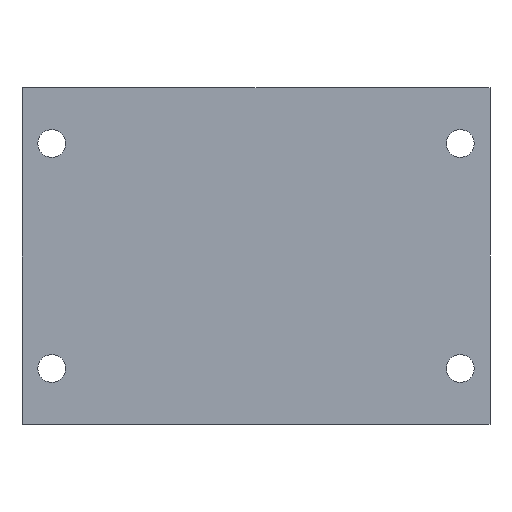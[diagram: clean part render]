
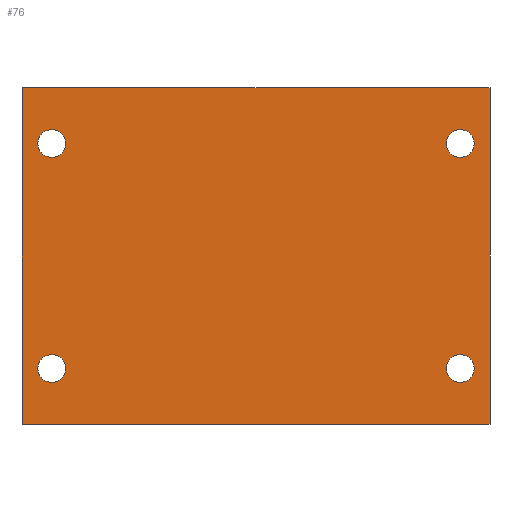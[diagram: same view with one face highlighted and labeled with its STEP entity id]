
A CAD part, front view. The second image highlights one B-rep face of the part: STEP entity #76.
In plain terms, the highlighted planar face has unit normal (0, -1, 0).
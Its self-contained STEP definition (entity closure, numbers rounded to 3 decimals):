
#2 = EDGE_CURVE ( 'NONE', #833, #43, #1090, .T. ) ;
#17 = CARTESIAN_POINT ( 'NONE',  ( 42.75, 0., -30.75 ) ) ;
#19 = CARTESIAN_POINT ( 'NONE',  ( 37.3, 0., 20.55 ) ) ;
#26 = EDGE_CURVE ( 'NONE', #1326, #95, #1617, .T. ) ;
#43 = VERTEX_POINT ( 'NONE', #986 ) ;
#46 = DIRECTION ( 'NONE',  ( 0., 0., -1. ) ) ;
#62 = EDGE_CURVE ( 'NONE', #1319, #1076, #214, .T. ) ;
#67 = ORIENTED_EDGE ( 'NONE', *, *, #211, .F. ) ;
#76 = ADVANCED_FACE ( 'NONE', ( #993, #1200, #897, #1452, #678 ), #660, .T. ) ;
#85 = AXIS2_PLACEMENT_3D ( 'NONE', #763, #1628, #119 ) ;
#86 = EDGE_CURVE ( 'NONE', #43, #833, #1339, .T. ) ;
#89 = ORIENTED_EDGE ( 'NONE', *, *, #26, .F. ) ;
#95 = VERTEX_POINT ( 'NONE', #519 ) ;
#101 = CIRCLE ( 'NONE', #1389, 2.55 ) ;
#108 = AXIS2_PLACEMENT_3D ( 'NONE', #1595, #1114, #1382 ) ;
#114 = AXIS2_PLACEMENT_3D ( 'NONE', #711, #1580, #961 ) ;
#119 = DIRECTION ( 'NONE',  ( 0., 0., -1. ) ) ;
#139 = CARTESIAN_POINT ( 'NONE',  ( -37.3, 0., 23.1 ) ) ;
#143 = VERTEX_POINT ( 'NONE', #1407 ) ;
#153 = EDGE_LOOP ( 'NONE', ( #586, #768 ) ) ;
#176 = LINE ( 'NONE', #17, #806 ) ;
#194 = EDGE_CURVE ( 'NONE', #95, #1076, #176, .T. ) ;
#200 = CARTESIAN_POINT ( 'NONE',  ( 37.3, 0., -23.1 ) ) ;
#211 = EDGE_CURVE ( 'NONE', #739, #143, #101, .T. ) ;
#214 = LINE ( 'NONE', #406, #762 ) ;
#217 = DIRECTION ( 'NONE',  ( 0., -1., 0. ) ) ;
#227 = EDGE_CURVE ( 'NONE', #924, #1488, #899, .T. ) ;
#242 = DIRECTION ( 'NONE',  ( 0., 0., -1. ) ) ;
#258 = EDGE_CURVE ( 'NONE', #1326, #1319, #751, .T. ) ;
#264 = CARTESIAN_POINT ( 'NONE',  ( 0., 0., 0. ) ) ;
#267 = DIRECTION ( 'NONE',  ( -1., 0., 0. ) ) ;
#269 = DIRECTION ( 'NONE',  ( 0., 0., -1. ) ) ;
#282 = DIRECTION ( 'NONE',  ( 0., 0., -1. ) ) ;
#288 = DIRECTION ( 'NONE',  ( 0., -1., 0. ) ) ;
#291 = EDGE_CURVE ( 'NONE', #143, #739, #1091, .T. ) ;
#292 = VECTOR ( 'NONE', #1598, 1000. ) ;
#304 = ORIENTED_EDGE ( 'NONE', *, *, #753, .F. ) ;
#326 = CARTESIAN_POINT ( 'NONE',  ( 37.3, 0., -20.55 ) ) ;
#336 = CARTESIAN_POINT ( 'NONE',  ( -37.3, 0., -20.55 ) ) ;
#389 = CIRCLE ( 'NONE', #562, 2.55 ) ;
#396 = DIRECTION ( 'NONE',  ( 0., -1., 0. ) ) ;
#406 = CARTESIAN_POINT ( 'NONE',  ( -42.75, 0., 30.75 ) ) ;
#451 = CARTESIAN_POINT ( 'NONE',  ( -37.3, 0., -18. ) ) ;
#452 = DIRECTION ( 'NONE',  ( 0., 0., -1. ) ) ;
#453 = DIRECTION ( 'NONE',  ( 0., 0., -1. ) ) ;
#458 = ORIENTED_EDGE ( 'NONE', *, *, #86, .F. ) ;
#464 = VERTEX_POINT ( 'NONE', #451 ) ;
#497 = CARTESIAN_POINT ( 'NONE',  ( 37.3, 0., -20.55 ) ) ;
#507 = EDGE_CURVE ( 'NONE', #1438, #464, #902, .T. ) ;
#514 = CARTESIAN_POINT ( 'NONE',  ( -37.3, 0., -23.1 ) ) ;
#519 = CARTESIAN_POINT ( 'NONE',  ( 42.75, 0., -30.75 ) ) ;
#562 = AXIS2_PLACEMENT_3D ( 'NONE', #336, #217, #453 ) ;
#586 = ORIENTED_EDGE ( 'NONE', *, *, #227, .F. ) ;
#592 = CARTESIAN_POINT ( 'NONE',  ( 37.3, 0., 23.1 ) ) ;
#622 = CIRCLE ( 'NONE', #710, 2.55 ) ;
#660 = PLANE ( 'NONE',  #1420 ) ;
#678 = FACE_OUTER_BOUND ( 'NONE', #1278, .T. ) ;
#710 = AXIS2_PLACEMENT_3D ( 'NONE', #956, #288, #46 ) ;
#711 = CARTESIAN_POINT ( 'NONE',  ( -37.3, 0., -20.55 ) ) ;
#736 = ORIENTED_EDGE ( 'NONE', *, *, #194, .F. ) ;
#739 = VERTEX_POINT ( 'NONE', #200 ) ;
#751 = LINE ( 'NONE', #1025, #1358 ) ;
#753 = EDGE_CURVE ( 'NONE', #464, #1438, #389, .T. ) ;
#762 = VECTOR ( 'NONE', #1424, 1000. ) ;
#763 = CARTESIAN_POINT ( 'NONE',  ( -37.3, 0., 20.55 ) ) ;
#768 = ORIENTED_EDGE ( 'NONE', *, *, #1565, .F. ) ;
#806 = VECTOR ( 'NONE', #267, 1000. ) ;
#809 = EDGE_LOOP ( 'NONE', ( #304, #1375 ) ) ;
#816 = EDGE_LOOP ( 'NONE', ( #1437, #458 ) ) ;
#833 = VERTEX_POINT ( 'NONE', #592 ) ;
#844 = DIRECTION ( 'NONE',  ( 0., -1., 0. ) ) ;
#897 = FACE_BOUND ( 'NONE', #153, .T. ) ;
#899 = CIRCLE ( 'NONE', #85, 2.55 ) ;
#902 = CIRCLE ( 'NONE', #114, 2.55 ) ;
#924 = VERTEX_POINT ( 'NONE', #139 ) ;
#956 = CARTESIAN_POINT ( 'NONE',  ( -37.3, 0., 20.55 ) ) ;
#961 = DIRECTION ( 'NONE',  ( 0., 0., -1. ) ) ;
#986 = CARTESIAN_POINT ( 'NONE',  ( 37.3, 0., 18. ) ) ;
#993 = FACE_BOUND ( 'NONE', #816, .T. ) ;
#1025 = CARTESIAN_POINT ( 'NONE',  ( 42.75, 0., 30.75 ) ) ;
#1049 = CARTESIAN_POINT ( 'NONE',  ( -37.3, 0., 18. ) ) ;
#1076 = VERTEX_POINT ( 'NONE', #1558 ) ;
#1090 = CIRCLE ( 'NONE', #108, 2.55 ) ;
#1091 = CIRCLE ( 'NONE', #1305, 2.55 ) ;
#1114 = DIRECTION ( 'NONE',  ( 0., -1., 0. ) ) ;
#1138 = CARTESIAN_POINT ( 'NONE',  ( 42.75, 0., 30.75 ) ) ;
#1181 = ORIENTED_EDGE ( 'NONE', *, *, #62, .T. ) ;
#1187 = ORIENTED_EDGE ( 'NONE', *, *, #291, .F. ) ;
#1200 = FACE_BOUND ( 'NONE', #1554, .T. ) ;
#1257 = DIRECTION ( 'NONE',  ( 0., -1., 0. ) ) ;
#1265 = DIRECTION ( 'NONE',  ( -1., 0., 0. ) ) ;
#1278 = EDGE_LOOP ( 'NONE', ( #1484, #1181, #736, #89 ) ) ;
#1293 = DIRECTION ( 'NONE',  ( 0., -1., 0. ) ) ;
#1305 = AXIS2_PLACEMENT_3D ( 'NONE', #326, #844, #452 ) ;
#1319 = VERTEX_POINT ( 'NONE', #1634 ) ;
#1326 = VERTEX_POINT ( 'NONE', #1138 ) ;
#1339 = CIRCLE ( 'NONE', #1343, 2.55 ) ;
#1343 = AXIS2_PLACEMENT_3D ( 'NONE', #19, #1293, #282 ) ;
#1353 = CARTESIAN_POINT ( 'NONE',  ( 42.75, 0., 30.75 ) ) ;
#1358 = VECTOR ( 'NONE', #1265, 1000. ) ;
#1375 = ORIENTED_EDGE ( 'NONE', *, *, #507, .F. ) ;
#1382 = DIRECTION ( 'NONE',  ( 0., 0., -1. ) ) ;
#1389 = AXIS2_PLACEMENT_3D ( 'NONE', #497, #1257, #242 ) ;
#1407 = CARTESIAN_POINT ( 'NONE',  ( 37.3, 0., -18. ) ) ;
#1420 = AXIS2_PLACEMENT_3D ( 'NONE', #264, #396, #269 ) ;
#1424 = DIRECTION ( 'NONE',  ( 0., 0., -1. ) ) ;
#1437 = ORIENTED_EDGE ( 'NONE', *, *, #2, .F. ) ;
#1438 = VERTEX_POINT ( 'NONE', #514 ) ;
#1452 = FACE_BOUND ( 'NONE', #809, .T. ) ;
#1484 = ORIENTED_EDGE ( 'NONE', *, *, #258, .T. ) ;
#1488 = VERTEX_POINT ( 'NONE', #1049 ) ;
#1554 = EDGE_LOOP ( 'NONE', ( #1187, #67 ) ) ;
#1558 = CARTESIAN_POINT ( 'NONE',  ( -42.75, 0., -30.75 ) ) ;
#1565 = EDGE_CURVE ( 'NONE', #1488, #924, #622, .T. ) ;
#1580 = DIRECTION ( 'NONE',  ( 0., -1., 0. ) ) ;
#1595 = CARTESIAN_POINT ( 'NONE',  ( 37.3, 0., 20.55 ) ) ;
#1598 = DIRECTION ( 'NONE',  ( 0., 0., -1. ) ) ;
#1617 = LINE ( 'NONE', #1353, #292 ) ;
#1628 = DIRECTION ( 'NONE',  ( 0., -1., 0. ) ) ;
#1634 = CARTESIAN_POINT ( 'NONE',  ( -42.75, 0., 30.75 ) ) ;
